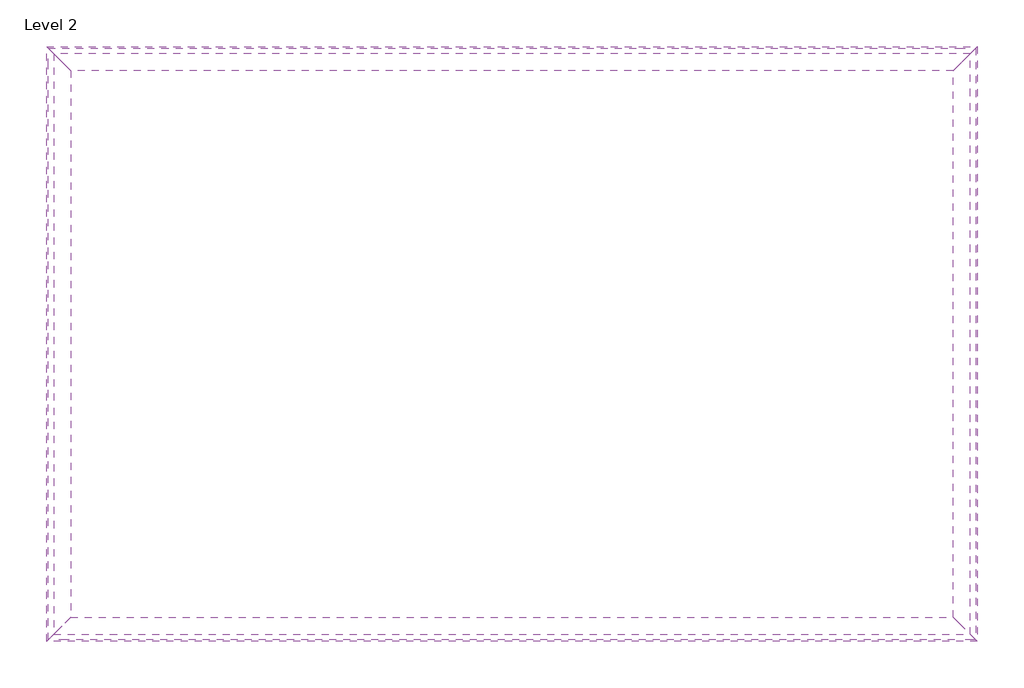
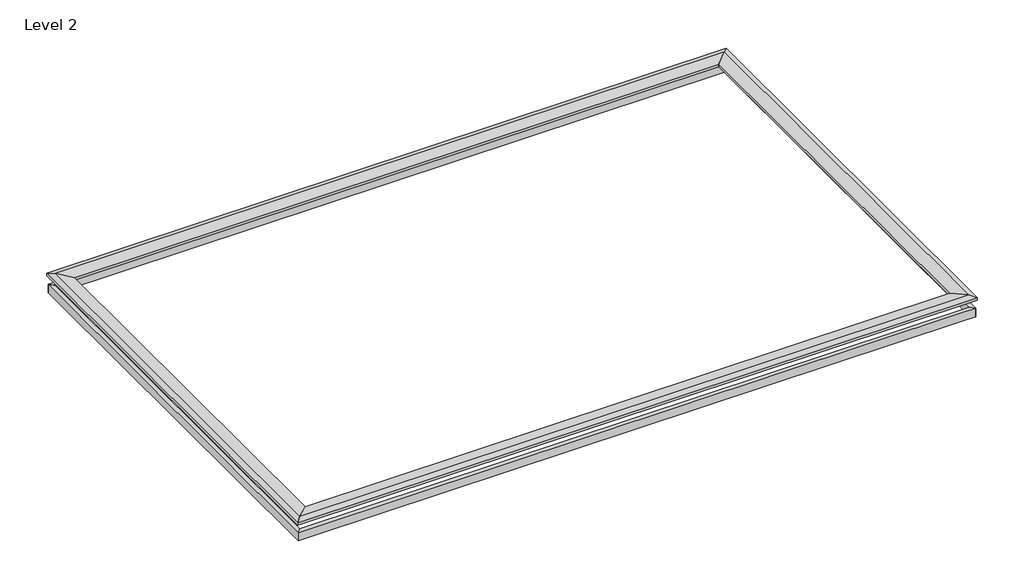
# One storey: 8 proxies.
"""IFC4 building model written with IfcOpenShell, lengths in millimetres."""

from ifc_helpers import new_model, si_unit, frame, origin, place, context, project, spatial, polyline, outline, extrude, faceted_brep, element, save

model = new_model("IFC4")

# Units and contexts
model_context = context("Model", 3, world=origin())
ifc_project = project(units=[si_unit("LENGTHUNIT", "METRE", prefix="MILLI")], contexts=[model_context])

# Site, building, storey
site = spatial("IfcSite", under=ifc_project)
building = spatial("IfcBuilding", under=site)
storey = spatial("IfcBuildingStorey", under=building, Name="Level 2", Elevation=3048.0)

# Proxies
placement = place(None, origin())
element("IfcBuildingElementProxy", 1, Name="Wall Sweeps", at=placement, inside=storey, context=model_context, shape_type="Brep", body=[
    faceted_brep([(-10148.2975534, 7901.1341008, 5892.8), (-10148.2975534, 7901.1341008, 5689.6), (-10056.2225534, 7809.0591008, 5689.6), (-10056.2225534, 7809.0591008, 5892.8), (5444.1274466, 7901.1341008, 5892.8), (5352.0524466, 7809.0591008, 5892.8), (5352.0524466, 7809.0591008, 5689.6), (5444.1274466, 7901.1341008, 5689.6), (5091.7024466, 7901.1341008, 5892.8), (5091.7024466, 7901.1341008, 5689.6)], [[[0, 1, 2, 3]], [[4, 5, 6, 7]], [[1, 0, 8, 4, 7, 9]], [[2, 1, 9, 7, 6]], [[3, 2, 6, 5]], [[0, 3, 5, 4, 8]]]),
])
element("IfcBuildingElementProxy", 2, Name="Wall Sweeps", at=placement, inside=storey, context=model_context, shape_type="Brep", body=[
    faceted_brep([(-9767.2975534, 7520.1341008, 6159.5), (-10046.6975534, 7799.5341008, 6197.6), (-10173.6975534, 7926.5341008, 6159.5), (-10173.6975534, 7926.5341008, 6096.0), (-9767.2975534, 7520.1341008, 6096.0), (5063.1274466, 7520.1341008, 6159.5), (5063.1274466, 7520.1341008, 6096.0), (5469.5274466, 7926.5341008, 6096.0), (5469.5274466, 7926.5341008, 6159.5), (5342.5274466, 7799.5341008, 6197.6)], [[[0, 1, 2, 3, 4]], [[5, 6, 7, 8, 9]], [[1, 0, 5, 9]], [[2, 1, 9, 8]], [[3, 2, 8, 7]], [[4, 3, 7, 6]], [[0, 4, 6, 5]]]),
])
element("IfcBuildingElementProxy", 3, Name="Wall Sweeps", at=placement, inside=storey, context=model_context, shape_type="Brep", body=[
    faceted_brep([(-10148.2975534, -2052.4908992, 5892.8), (-10148.2975534, -2052.4908992, 5689.6), (-10056.2225534, -1960.4158992, 5689.6), (-10056.2225534, -1960.4158992, 5892.8), (-10148.2975534, 7901.1341008, 5892.8), (-10056.2225534, 7809.0591008, 5892.8), (-10056.2225534, 7809.0591008, 5689.6), (-10148.2975534, 7901.1341008, 5689.6), (-10148.2975534, 7548.7091008, 5892.8), (-10148.2975534, 7548.7091008, 5689.6)], [[[0, 1, 2, 3]], [[4, 5, 6, 7]], [[1, 0, 8, 4, 7, 9]], [[2, 1, 9, 7, 6]], [[3, 2, 6, 5]], [[0, 3, 5, 4, 8]]]),
])
element("IfcBuildingElementProxy", 4, Name="Wall Sweeps", at=placement, inside=storey, context=model_context, shape_type="Brep", body=[
    faceted_brep([(-9767.2975534, -1671.4908992, 6159.5), (-10046.6975534, -1950.8908992, 6197.6), (-10173.6975534, -2077.8908992, 6159.5), (-10173.6975534, -2077.8908992, 6096.0), (-9767.2975534, -1671.4908992, 6096.0), (-9767.2975534, 7520.1341008, 6159.5), (-9767.2975534, 7520.1341008, 6096.0), (-10173.6975534, 7926.5341008, 6096.0), (-10173.6975534, 7926.5341008, 6159.5), (-10046.6975534, 7799.5341008, 6197.6)], [[[0, 1, 2, 3, 4]], [[5, 6, 7, 8, 9]], [[1, 0, 5, 9]], [[2, 1, 9, 8]], [[3, 2, 8, 7]], [[4, 3, 7, 6]], [[0, 4, 6, 5]]]),
])
element("IfcBuildingElementProxy", 5, Name="Wall Sweeps", at=placement, inside=storey, context=model_context, shape_type="Brep", body=[
    faceted_brep([(5444.1274466, -2052.4908992, 5892.8), (5444.1274466, -2052.4908992, 5689.6), (5352.0524466, -1960.4158992, 5689.6), (5352.0524466, -1960.4158992, 5892.8), (-10148.2975534, -2052.4908992, 5892.8), (-10056.2225534, -1960.4158992, 5892.8), (-10056.2225534, -1960.4158992, 5689.6), (-10148.2975534, -2052.4908992, 5689.6), (5091.7024466, -2052.4908992, 5892.8), (-9795.8725534, -2052.4908992, 5892.8), (-9795.8725534, -2052.4908992, 5689.6), (5091.7024466, -2052.4908992, 5689.6)], [[[0, 1, 2, 3]], [[4, 5, 6, 7]], [[1, 0, 8, 9, 4, 7, 10, 11]], [[2, 1, 11, 10, 7, 6]], [[3, 2, 6, 5]], [[0, 3, 5, 4, 9, 8]]]),
])
element("IfcBuildingElementProxy", 6, Name="Wall Sweeps", at=placement, inside=storey, context=model_context, shape_type="Brep", body=[
    faceted_brep([(5063.1274466, -1671.4908992, 6159.5), (5342.5274466, -1950.8908992, 6197.6), (5469.5274466, -2077.8908992, 6159.5), (5469.5274466, -2077.8908992, 6096.0), (5063.1274466, -1671.4908992, 6096.0), (-9767.2975534, -1671.4908992, 6159.5), (-9767.2975534, -1671.4908992, 6096.0), (-10173.6975534, -2077.8908992, 6096.0), (-10173.6975534, -2077.8908992, 6159.5), (-10046.6975534, -1950.8908992, 6197.6)], [[[0, 1, 2, 3, 4]], [[5, 6, 7, 8, 9]], [[1, 0, 5, 9]], [[2, 1, 9, 8]], [[3, 2, 8, 7]], [[4, 3, 7, 6]], [[0, 4, 6, 5]]]),
])
element("IfcBuildingElementProxy", 7, Name="Wall Sweeps", at=placement, inside=storey, context=model_context, shape_type="SweptSolid", body=[
    extrude(outline(polyline([(5352.0524466, 7809.0591008), (5444.1274466, 7901.1341008), (5444.1274466, -2052.4908992), (5352.0524466, -1960.4158992), (5352.0524466, 7809.0591008)])), frame((0.0, 0.0, 5689.6), z_axis=(0.0, 0.0, 1.0), x_axis=(1.0, 0.0, 0.0)), (0.0, 0.0, 1.0), 203.2),
])
element("IfcBuildingElementProxy", 8, Name="Wall Sweeps", at=placement, inside=storey, context=model_context, shape_type="Brep", body=[
    faceted_brep([(5063.1274466, 7520.1341008, 6159.5), (5342.5274466, 7799.5341008, 6197.6), (5469.5274466, 7926.5341008, 6159.5), (5469.5274466, 7926.5341008, 6096.0), (5063.1274466, 7520.1341008, 6096.0), (5063.1274466, -1671.4908992, 6159.5), (5063.1274466, -1671.4908992, 6096.0), (5469.5274466, -2077.8908992, 6096.0), (5469.5274466, -2077.8908992, 6159.5), (5342.5274466, -1950.8908992, 6197.6)], [[[0, 1, 2, 3, 4]], [[5, 6, 7, 8, 9]], [[1, 0, 5, 9]], [[2, 1, 9, 8]], [[3, 2, 8, 7]], [[4, 3, 7, 6]], [[0, 4, 6, 5]]]),
])

save(model, "model.ifc")
